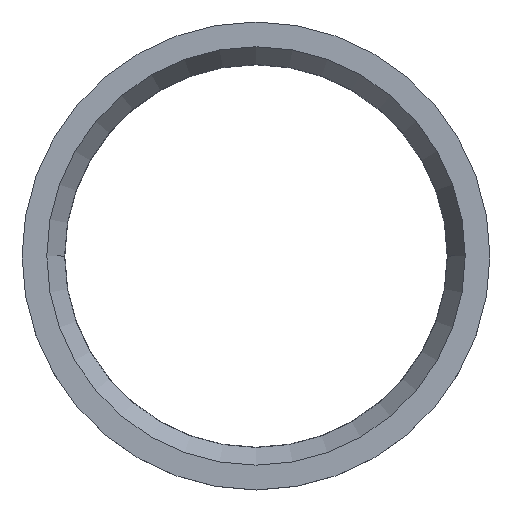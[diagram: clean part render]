
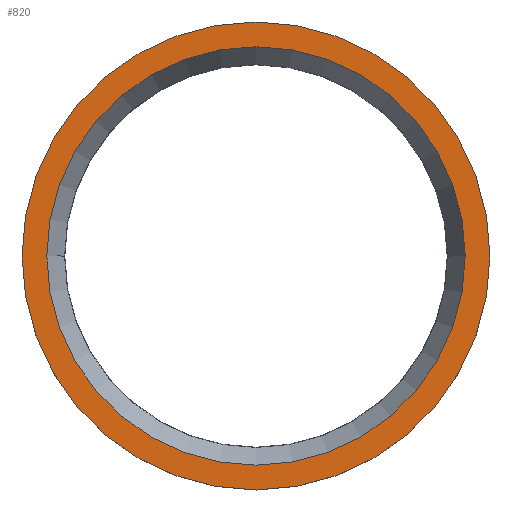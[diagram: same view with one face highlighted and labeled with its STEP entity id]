
A CAD part, top view. The second image highlights one B-rep face of the part: STEP entity #820.
In plain terms, the highlighted planar face has unit normal (0, 0, 1).
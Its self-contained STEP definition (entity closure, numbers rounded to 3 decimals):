
#125=CARTESIAN_POINT('',(0.,0.,22.));
#126=DIRECTION('',(0.,0.,1.));
#127=DIRECTION('',(1.,0.,0.));
#128=AXIS2_PLACEMENT_3D('',#125,#126,#127);
#130=CARTESIAN_POINT('',(0.,0.,22.));
#131=DIRECTION('',(0.,0.,1.));
#132=DIRECTION('',(-1.,0.,0.));
#133=AXIS2_PLACEMENT_3D('',#130,#131,#132);
#135=CARTESIAN_POINT('',(0.,0.,
22.));
#136=DIRECTION('',(0.,0.,-1.));
#137=DIRECTION('',(1.,0.,0.));
#138=AXIS2_PLACEMENT_3D('',#135,#136,#137);
#140=CARTESIAN_POINT('',(0.,0.,
22.));
#141=DIRECTION('',(0.,0.,-1.));
#142=DIRECTION('',(-1.,0.,0.));
#143=AXIS2_PLACEMENT_3D('',#140,#141,#142);
#515=CARTESIAN_POINT('',(104.,0.,22.));
#516=CARTESIAN_POINT('',(-104.,0.,22.));
#517=VERTEX_POINT('',#515);
#518=VERTEX_POINT('',#516);
#519=CARTESIAN_POINT('',(93.,0.,
22.));
#520=CARTESIAN_POINT('',(-93.,0.,22.));
#521=VERTEX_POINT('',#519);
#522=VERTEX_POINT('',#520);
#805=CARTESIAN_POINT('',(0.,0.,22.));
#806=DIRECTION('',(0.,0.,1.));
#807=DIRECTION('',(1.,0.,0.));
#808=AXIS2_PLACEMENT_3D('',#805,#806,#807);
#809=PLANE('',#808);
#811=ORIENTED_EDGE('',*,*,#810,.F.);
#813=ORIENTED_EDGE('',*,*,#812,.F.);
#814=EDGE_LOOP('',(#811,#813));
#815=FACE_OUTER_BOUND('',#814,.F.);
#816=ORIENTED_EDGE('',*,*,#785,.F.);
#817=ORIENTED_EDGE('',*,*,#799,.F.);
#818=EDGE_LOOP('',(#816,#817));
#819=FACE_BOUND('',#818,.F.);
#129=CIRCLE('',#128,104.);
#134=CIRCLE('',#133,104.);
#139=CIRCLE('',#138,93.);
#144=CIRCLE('',#143,93.);
#785=EDGE_CURVE('',#521,#522,#139,.T.);
#799=EDGE_CURVE('',#522,#521,#144,.T.);
#810=EDGE_CURVE('',#517,#518,#129,.T.);
#812=EDGE_CURVE('',#518,#517,#134,.T.);
#820=ADVANCED_FACE('',(#815,#819),#809,.T.);
